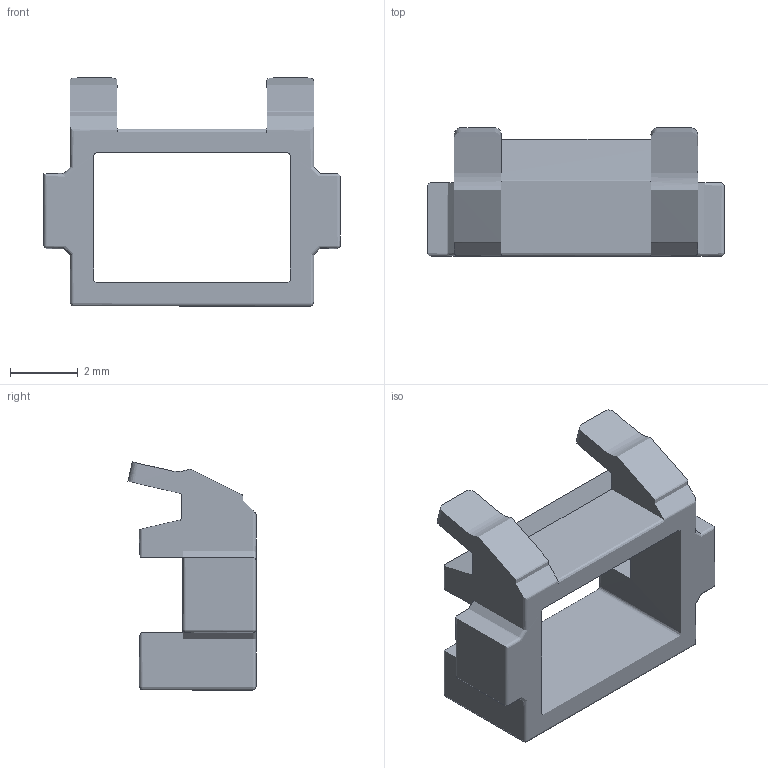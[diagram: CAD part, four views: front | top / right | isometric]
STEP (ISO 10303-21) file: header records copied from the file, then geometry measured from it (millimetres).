
FILE_DESCRIPTION(/* description */ ('STEP AP242 Edition 2','CAx-IF Rec.Pracs.---Representation and Presentation of Product Manufacturing Information (PMI)---4.0---2014-10-13','CAx-IF Rec.Pracs.---3D Tessellated Geometry---0.4---2014-09-14','2;1','CAx-IF Rec.Pracs.---User Defined Attributes---1.5---2016-08-15'),/* implementation_level */ '2;1');
FILE_NAME(/* name */ 'Assembly 1 - Part 101',/* time_stamp */ '2026-03-29T21:14:56Z',/* author */ (''),/* organization */ (''),/* preprocessor_version */ 'ST-DEVELOPER v20',/* originating_system */ 'ONSHAPE BY PTC INC, 1.212',/* authorisation */ ' ');
FILE_SCHEMA (('AP242_MANAGED_MODEL_BASED_3D_ENGINEERING_MIM_LF { 1 0 10303 442 3 1 4 }'));
Length unit declared in the file: metre
Products named in the file (1): Part 101
Bounding box: 8.76 x 3.79 x 6.74 mm (x, y, z)
Surface area: 204.6 mm2 (no closed solid volume)
Topology: 0 solids, 1 shells, 1 faces, 0 edges, 0 vertices
Faces by surface type: other 1
Entity records: 31 total; most frequent: DIRECTION 2, SHAPE_REPRESENTATION_RELATIONSHIP 1, TESSELLATED_SHAPE_REPRESENTATION 1, STYLED_ITEM 1, PRESENTATION_STYLE_ASSIGNMENT 1, SURFACE_STYLE_USAGE 1, SURFACE_SIDE_STYLE 1, SURFACE_STYLE_FILL_AREA 1
